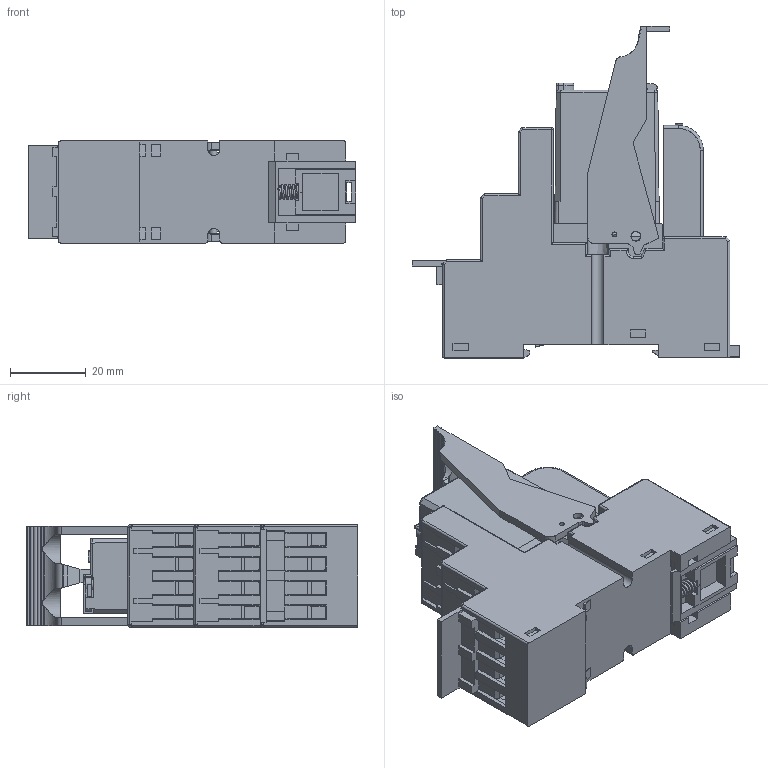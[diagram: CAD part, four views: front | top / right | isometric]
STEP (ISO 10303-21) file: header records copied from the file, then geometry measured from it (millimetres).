
FILE_DESCRIPTION(('STEP AP214'),'2;1');
FILE_NAME('58_34---completo.stp','2011-04-12T15:20:18',(''),(''),'2007.1.106','THINKDESIGN','');
FILE_SCHEMA(('AUTOMOTIVE_DESIGN'));
Products named in the file (1): None
Bounding box: 86.6 x 87.81 x 27 mm (x, y, z)
Surface area: 38265.7 mm2 (no closed solid volume)
Topology: 0 solids, 0 shells, 1563 faces, 8595 edges, 8550 vertices
Faces by surface type: plane 1180, cylinder 279, bspline 104
Full cylindrical faces by diameter (mm): 0.9 x1, 1 x14, 1.3 x2, 2.5 x2, 2.6 x2, 3 x1, 4.7 x14, 5 x15
Entity records: 87756 total; most frequent: CARTESIAN_POINT 25304, DIRECTION 10825, COMPOSITE_CURVE_SEGMENT 8587, TRIMMED_CURVE 7376, VECTOR 6923, LINE 6923, AXIS2_PLACEMENT_3D 1951, OUTER_BOUNDARY_CURVE 1563
